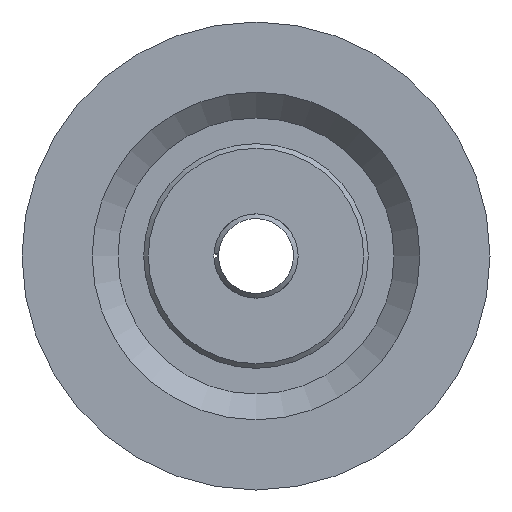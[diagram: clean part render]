
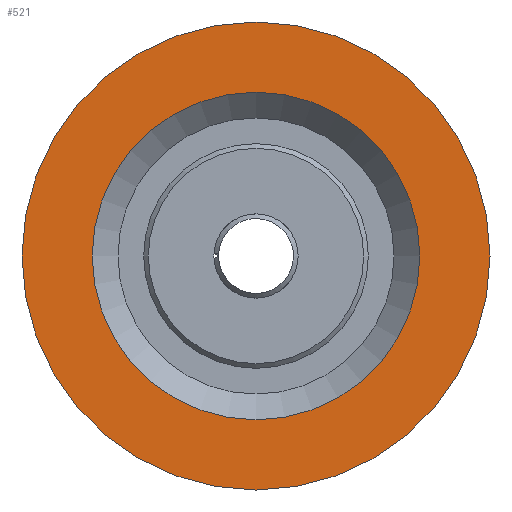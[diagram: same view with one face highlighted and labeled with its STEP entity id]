
A CAD part, left-side view. The second image highlights one B-rep face of the part: STEP entity #521.
In plain terms, the highlighted planar face has unit normal (-1, 0, 0).
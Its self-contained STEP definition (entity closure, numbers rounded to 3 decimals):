
#34=FACE_BOUND('',#147,.T.);
#40=PLANE('',#655);
#114=FACE_OUTER_BOUND('',#146,.T.);
#146=EDGE_LOOP('',(#439,#440));
#147=EDGE_LOOP('',(#441,#442));
#182=CIRCLE('',#622,50.);
#183=CIRCLE('',#623,50.);
#203=CIRCLE('',#653,35.);
#204=CIRCLE('',#654,35.);
#235=VERTEX_POINT('',#926);
#236=VERTEX_POINT('',#928);
#256=VERTEX_POINT('',#985);
#257=VERTEX_POINT('',#987);
#294=EDGE_CURVE('',#235,#236,#182,.T.);
#295=EDGE_CURVE('',#236,#235,#183,.T.);
#322=EDGE_CURVE('',#257,#256,#203,.T.);
#323=EDGE_CURVE('',#256,#257,#204,.T.);
#439=ORIENTED_EDGE('',*,*,#295,.F.);
#440=ORIENTED_EDGE('',*,*,#294,.F.);
#441=ORIENTED_EDGE('',*,*,#322,.T.);
#442=ORIENTED_EDGE('',*,*,#323,.T.);
#521=ADVANCED_FACE('',(#114,#34),#40,.T.);
#622=AXIS2_PLACEMENT_3D('',#929,#740,#741);
#623=AXIS2_PLACEMENT_3D('',#930,#742,#743);
#653=AXIS2_PLACEMENT_3D('',#988,#809,#810);
#654=AXIS2_PLACEMENT_3D('',#989,#811,#812);
#655=AXIS2_PLACEMENT_3D('',#990,#813,#814);
#740=DIRECTION('center_axis',(1.,0.,0.));
#741=DIRECTION('ref_axis',(0.,0.,-1.));
#742=DIRECTION('center_axis',(1.,0.,0.));
#743=DIRECTION('ref_axis',(0.,0.,-1.));
#809=DIRECTION('center_axis',(1.,0.,0.));
#810=DIRECTION('ref_axis',(0.,0.,-1.));
#811=DIRECTION('center_axis',(1.,0.,0.));
#812=DIRECTION('ref_axis',(0.,0.,-1.));
#813=DIRECTION('center_axis',(-1.,0.,0.));
#814=DIRECTION('ref_axis',(0.,0.,1.));
#926=CARTESIAN_POINT('',(-10.5,-50.,0.));
#928=CARTESIAN_POINT('',(-10.5,50.,0.));
#929=CARTESIAN_POINT('Origin',(-10.5,0.,0.));
#930=CARTESIAN_POINT('Origin',(-10.5,0.,0.));
#985=CARTESIAN_POINT('',(-10.5,-35.,0.));
#987=CARTESIAN_POINT('',(-10.5,35.,0.));
#988=CARTESIAN_POINT('Origin',(-10.5,0.,0.));
#989=CARTESIAN_POINT('Origin',(-10.5,0.,0.));
#990=CARTESIAN_POINT('Origin',(-10.5,50.,0.));
